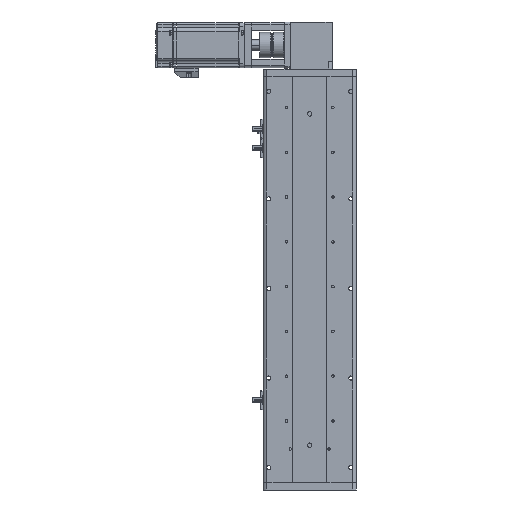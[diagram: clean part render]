
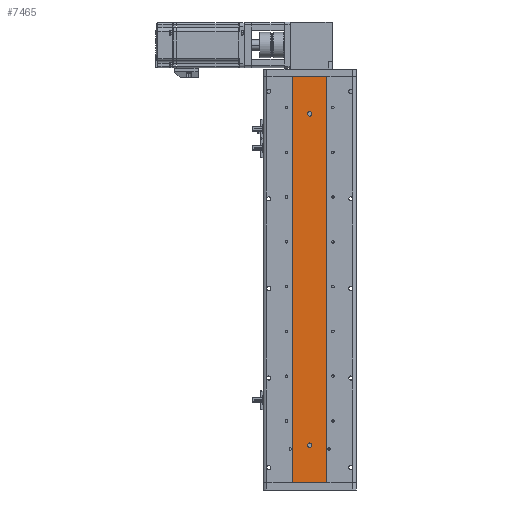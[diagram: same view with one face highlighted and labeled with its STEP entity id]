
A CAD part, front view. The second image highlights one B-rep face of the part: STEP entity #7465.
In plain terms, the highlighted planar face has unit normal (0, -1, 0).
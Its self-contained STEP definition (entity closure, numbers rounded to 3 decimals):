
#283 = CARTESIAN_POINT ( 'NONE',  ( 0., 1., -222. ) ) ;
#528 = ORIENTED_EDGE ( 'NONE', *, *, #45782, .F. ) ;
#562 = ORIENTED_EDGE ( 'NONE', *, *, #1161, .F. ) ;
#853 = DIRECTION ( 'NONE',  ( 0., -1., 0. ) ) ;
#1161 = EDGE_CURVE ( 'NONE', #25392, #11956, #14721, .T. ) ;
#3062 = DIRECTION ( 'NONE',  ( 0., 0., -1. ) ) ;
#3397 = VERTEX_POINT ( 'NONE', #11527 ) ;
#4828 = DIRECTION ( 'NONE',  ( 0., 0., -1. ) ) ;
#5475 = CARTESIAN_POINT ( 'NONE',  ( -23., 1., 272.001 ) ) ;
#6796 = LINE ( 'NONE', #38628, #24547 ) ;
#7465 = ADVANCED_FACE ( 'NONE', ( #35010, #47132, #22988 ), #29911, .F. ) ;
#9055 = CARTESIAN_POINT ( 'NONE',  ( 0., 1., 219. ) ) ;
#9220 = CARTESIAN_POINT ( 'NONE',  ( 0., 1., 225. ) ) ;
#10440 = EDGE_LOOP ( 'NONE', ( #28797, #53886, #562, #25083 ) ) ;
#11186 = EDGE_LOOP ( 'NONE', ( #35793, #53798 ) ) ;
#11257 = DIRECTION ( 'NONE',  ( 1., 0., 0. ) ) ;
#11527 = CARTESIAN_POINT ( 'NONE',  ( -23., 1., -272. ) ) ;
#11903 = CARTESIAN_POINT ( 'NONE',  ( 23., 1., 272.001 ) ) ;
#11956 = VERTEX_POINT ( 'NONE', #38010 ) ;
#12010 = CARTESIAN_POINT ( 'NONE',  ( -23., 1., 272. ) ) ;
#14721 = LINE ( 'NONE', #30196, #58781 ) ;
#16473 = DIRECTION ( 'NONE',  ( 0., 0., 1. ) ) ;
#17279 = LINE ( 'NONE', #38147, #52043 ) ;
#17553 = CARTESIAN_POINT ( 'NONE',  ( 0., 1., 222. ) ) ;
#19219 = VERTEX_POINT ( 'NONE', #9055 ) ;
#19864 = CIRCLE ( 'NONE', #21429, 3. ) ;
#21429 = AXIS2_PLACEMENT_3D ( 'NONE', #283, #31944, #4828 ) ;
#21458 = ORIENTED_EDGE ( 'NONE', *, *, #54543, .F. ) ;
#22095 = DIRECTION ( 'NONE',  ( 0., 0., -1. ) ) ;
#22988 = FACE_OUTER_BOUND ( 'NONE', #10440, .T. ) ;
#23674 = EDGE_LOOP ( 'NONE', ( #21458, #528 ) ) ;
#23994 = DIRECTION ( 'NONE',  ( 0., -1., 0. ) ) ;
#24547 = VECTOR ( 'NONE', #43198, 1000. ) ;
#25083 = ORIENTED_EDGE ( 'NONE', *, *, #44276, .F. ) ;
#25114 = CIRCLE ( 'NONE', #27226, 3. ) ;
#25392 = VERTEX_POINT ( 'NONE', #56280 ) ;
#27226 = AXIS2_PLACEMENT_3D ( 'NONE', #51180, #23994, #55753 ) ;
#27971 = CARTESIAN_POINT ( 'NONE',  ( 0., 1., 222. ) ) ;
#28797 = ORIENTED_EDGE ( 'NONE', *, *, #39838, .T. ) ;
#29325 = EDGE_CURVE ( 'NONE', #19219, #46989, #54391, .T. ) ;
#29561 = EDGE_CURVE ( 'NONE', #3397, #11956, #6796, .T. ) ;
#29911 = PLANE ( 'NONE',  #58649 ) ;
#29993 = CIRCLE ( 'NONE', #57929, 3. ) ;
#30196 = CARTESIAN_POINT ( 'NONE',  ( 23., 1., 272.001 ) ) ;
#31944 = DIRECTION ( 'NONE',  ( 0., -1., 0. ) ) ;
#32500 = DIRECTION ( 'NONE',  ( 0., 0., -1. ) ) ;
#35010 = FACE_BOUND ( 'NONE', #11186, .T. ) ;
#35793 = ORIENTED_EDGE ( 'NONE', *, *, #29325, .F. ) ;
#38010 = CARTESIAN_POINT ( 'NONE',  ( 23., 1., -272. ) ) ;
#38147 = CARTESIAN_POINT ( 'NONE',  ( 23., 1., 272. ) ) ;
#38628 = CARTESIAN_POINT ( 'NONE',  ( 23., 1., -272. ) ) ;
#39838 = EDGE_CURVE ( 'NONE', #42142, #3397, #42927, .T. ) ;
#41737 = DIRECTION ( 'NONE',  ( 0., 0., -1. ) ) ;
#42142 = VERTEX_POINT ( 'NONE', #12010 ) ;
#42927 = LINE ( 'NONE', #5475, #55051 ) ;
#43198 = DIRECTION ( 'NONE',  ( 1., 0., 0. ) ) ;
#43609 = DIRECTION ( 'NONE',  ( 0., 1., 0. ) ) ;
#44276 = EDGE_CURVE ( 'NONE', #42142, #25392, #17279, .T. ) ;
#44458 = EDGE_CURVE ( 'NONE', #46989, #19219, #29993, .T. ) ;
#44604 = CARTESIAN_POINT ( 'NONE',  ( 0., 1., -225. ) ) ;
#45782 = EDGE_CURVE ( 'NONE', #54246, #49349, #19864, .T. ) ;
#46420 = AXIS2_PLACEMENT_3D ( 'NONE', #27971, #853, #32500 ) ;
#46989 = VERTEX_POINT ( 'NONE', #9220 ) ;
#47132 = FACE_BOUND ( 'NONE', #23674, .T. ) ;
#49286 = DIRECTION ( 'NONE',  ( 0., -1., 0. ) ) ;
#49349 = VERTEX_POINT ( 'NONE', #44604 ) ;
#51180 = CARTESIAN_POINT ( 'NONE',  ( 0., 1., -222. ) ) ;
#52043 = VECTOR ( 'NONE', #11257, 1000. ) ;
#53389 = CARTESIAN_POINT ( 'NONE',  ( 0., 1., -219. ) ) ;
#53798 = ORIENTED_EDGE ( 'NONE', *, *, #44458, .F. ) ;
#53886 = ORIENTED_EDGE ( 'NONE', *, *, #29561, .T. ) ;
#54246 = VERTEX_POINT ( 'NONE', #53389 ) ;
#54391 = CIRCLE ( 'NONE', #46420, 3. ) ;
#54543 = EDGE_CURVE ( 'NONE', #49349, #54246, #25114, .T. ) ;
#55051 = VECTOR ( 'NONE', #41737, 1000. ) ;
#55753 = DIRECTION ( 'NONE',  ( 0., 0., -1. ) ) ;
#56280 = CARTESIAN_POINT ( 'NONE',  ( 23., 1., 272. ) ) ;
#57929 = AXIS2_PLACEMENT_3D ( 'NONE', #17553, #49286, #22095 ) ;
#58649 = AXIS2_PLACEMENT_3D ( 'NONE', #11903, #43609, #16473 ) ;
#58781 = VECTOR ( 'NONE', #3062, 1000. ) ;
